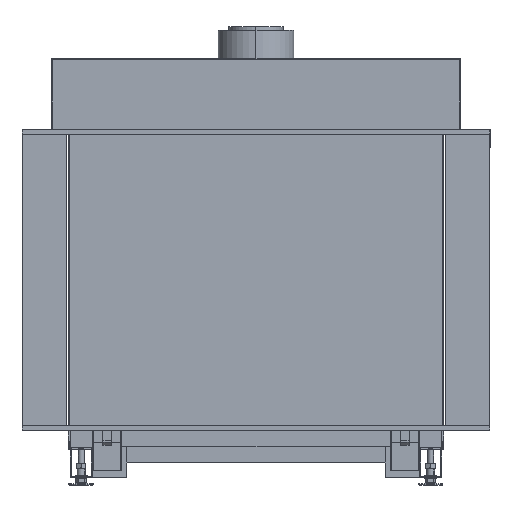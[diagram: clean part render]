
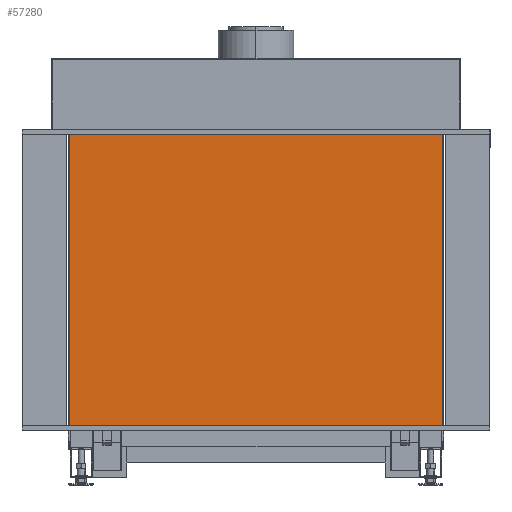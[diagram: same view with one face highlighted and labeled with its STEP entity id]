
A CAD part, top view. The second image highlights one B-rep face of the part: STEP entity #57280.
In plain terms, the highlighted planar face has unit normal (0, 0, 1).
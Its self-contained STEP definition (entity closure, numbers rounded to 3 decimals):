
#54240=CARTESIAN_POINT('',(1480.1,603.5,206.));
#54250=VERTEX_POINT('',#54240);
#54280=CARTESIAN_POINT('',(1353.384,603.5,206.));
#54290=DIRECTION('',(-1.,0.,0.));
#54300=VECTOR('',#54290,1.);
#54310=LINE('',#54280,#54300);
#54320=CARTESIAN_POINT('',(722.5,603.5,206.));
#54330=VERTEX_POINT('',#54320);
#54340=EDGE_CURVE('',#54250,#54330,#54310,.T.);
#56030=CARTESIAN_POINT('',(1480.1,2.,
206.));
#56040=VERTEX_POINT('',#56030);
#56090=CARTESIAN_POINT('',(1480.1,586.85,206.));
#56100=DIRECTION('',(0.,-1.,0.));
#56110=VECTOR('',#56100,1.);
#56120=LINE('',#56090,#56110);
#56130=EDGE_CURVE('',#54250,#56040,#56120,.T.);
#56470=CARTESIAN_POINT('',(1353.384,2.,206.));
#56480=DIRECTION('',(1.,0.,0.));
#56490=VECTOR('',#56480,1.);
#56500=LINE('',#56470,#56490);
#56510=CARTESIAN_POINT('',(722.5,2.,
206.));
#56520=VERTEX_POINT('',#56510);
#56530=EDGE_CURVE('',#56520,#56040,#56500,.T.);
#57080=CARTESIAN_POINT('',(722.5,586.85,
206.));
#57090=DIRECTION('',(0.,1.,0.));
#57100=VECTOR('',#57090,1.);
#57110=LINE('',#57080,#57100);
#57120=EDGE_CURVE('',#56520,#54330,#57110,.T.);
#57170=CARTESIAN_POINT('',(1353.384,586.85,206.));
#57180=DIRECTION('',(0.,0.,1.));
#57190=DIRECTION('',(-1.,0.,0.));
#57200=AXIS2_PLACEMENT_3D('',#57170,#57180,#57190);
#57210=PLANE('',#57200);
#57220=ORIENTED_EDGE('',*,*,#54340,.T.);
#57230=ORIENTED_EDGE('',*,*,#56130,.F.);
#57240=ORIENTED_EDGE('',*,*,#56530,.T.);
#57250=ORIENTED_EDGE('',*,*,#57120,.F.);
#57260=EDGE_LOOP('',(#57250,#57240,#57230,#57220));
#57270=FACE_OUTER_BOUND('',#57260,.T.);
#57280=ADVANCED_FACE('',(#57270),#57210,.T.);
